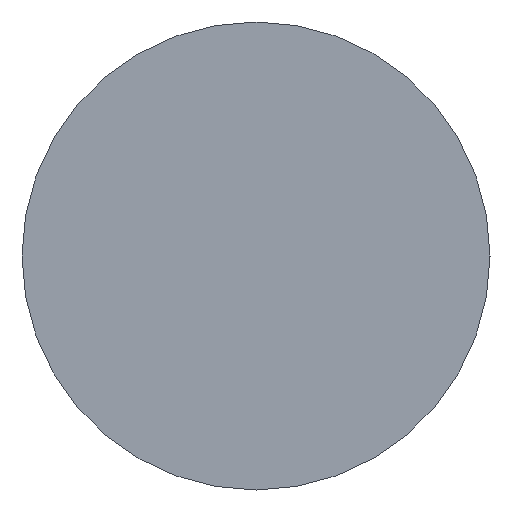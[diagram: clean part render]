
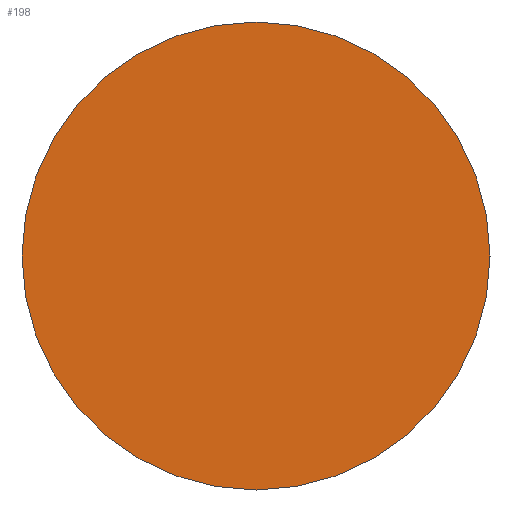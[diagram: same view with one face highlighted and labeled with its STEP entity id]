
A CAD part, left-side view. The second image highlights one B-rep face of the part: STEP entity #198.
In plain terms, the highlighted planar face has unit normal (-1, 0, 0).
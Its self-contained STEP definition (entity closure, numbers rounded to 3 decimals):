
#1 = CIRCLE ( 'NONE', #223, 10. ) ;
#7 = VERTEX_POINT ( 'NONE', #171 ) ;
#56 = AXIS2_PLACEMENT_3D ( 'NONE', #268, #227, #399 ) ;
#71 = EDGE_CURVE ( 'NONE', #7, #175, #1, .T. ) ;
#91 = DIRECTION ( 'NONE',  ( 0., 0., 1. ) ) ;
#102 = CARTESIAN_POINT ( 'NONE',  ( -150., 0., 10. ) ) ;
#120 = ORIENTED_EDGE ( 'NONE', *, *, #71, .T. ) ;
#125 = CARTESIAN_POINT ( 'NONE',  ( -150., 0., 0. ) ) ;
#171 = CARTESIAN_POINT ( 'NONE',  ( -150., 0., -10. ) ) ;
#175 = VERTEX_POINT ( 'NONE', #102 ) ;
#189 = CARTESIAN_POINT ( 'NONE',  ( -150., 10., 0. ) ) ;
#192 = EDGE_CURVE ( 'NONE', #175, #7, #489, .T. ) ;
#198 = ADVANCED_FACE ( 'NONE', ( #265 ), #463, .F. ) ;
#223 = AXIS2_PLACEMENT_3D ( 'NONE', #125, #443, #91 ) ;
#227 = DIRECTION ( 'NONE',  ( -1., 0., 0. ) ) ;
#229 = DIRECTION ( 'NONE',  ( 1., 0., 0. ) ) ;
#265 = FACE_OUTER_BOUND ( 'NONE', #283, .T. ) ;
#268 = CARTESIAN_POINT ( 'NONE',  ( -150., 0., 0. ) ) ;
#283 = EDGE_LOOP ( 'NONE', ( #389, #120 ) ) ;
#389 = ORIENTED_EDGE ( 'NONE', *, *, #192, .T. ) ;
#397 = DIRECTION ( 'NONE',  ( 0., 0., -1. ) ) ;
#399 = DIRECTION ( 'NONE',  ( 0., 0., 1. ) ) ;
#443 = DIRECTION ( 'NONE',  ( -1., 0., 0. ) ) ;
#463 = PLANE ( 'NONE',  #494 ) ;
#489 = CIRCLE ( 'NONE', #56, 10. ) ;
#494 = AXIS2_PLACEMENT_3D ( 'NONE', #189, #229, #397 ) ;
